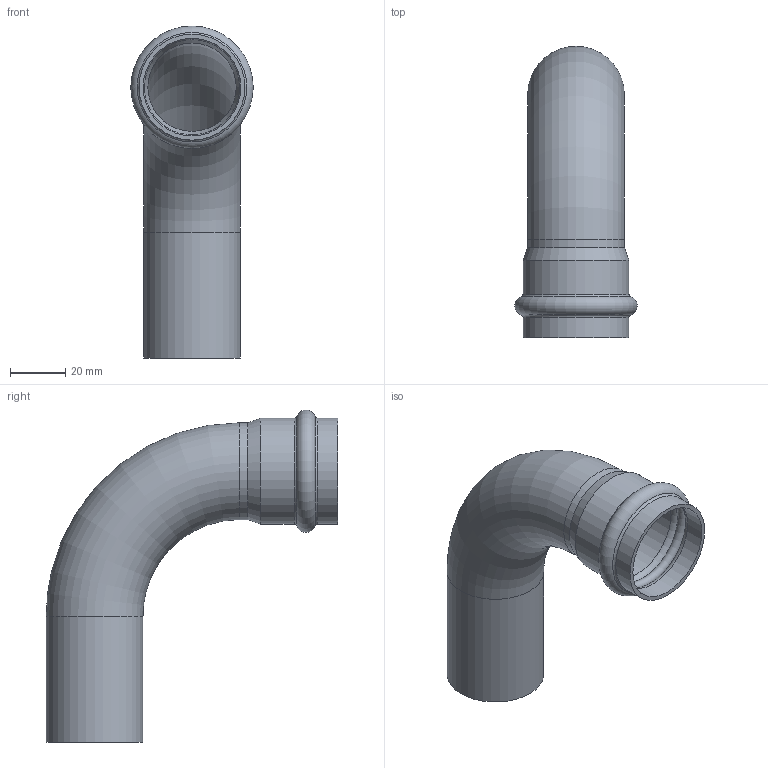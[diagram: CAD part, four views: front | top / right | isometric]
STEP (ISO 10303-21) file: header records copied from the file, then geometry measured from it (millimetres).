
FILE_DESCRIPTION(('STEP AP203'), '1');
FILE_NAME('VTi.950.I.003535', '', ('UNSPECIFIED'), ('UNSPECIFIED'), 'C3D Converter', 'C3D Toolkit', '');
FILE_SCHEMA(('CONFIG_CONTROL_DESIGN'));
Length unit declared in the file: millimetre
Products named in the file (1): ВР.302661.028.000 СБ
Bounding box: 44.28 x 105.5 x 120.14 mm (x, y, z)
Volume: 28059.1 mm3; surface area: 36667.5 mm2
Topology: 1 solids, 1 shells, 21 faces, 44 edges, 25 vertices
Faces by surface type: torus 9, cylinder 8, plane 2, cone 2
Full cylindrical faces by diameter (mm): 32 x2, 35 x2, 35.3 x2, 38.3 x2
Entity records: 508 total; most frequent: DIRECTION 94, CARTESIAN_POINT 72, ORIENTED_EDGE 50, AXIS2_PLACEMENT_3D 47, EDGE_LOOP 42, FACE_OUTER_BOUND 30, EDGE_CURVE 25, VERTEX_POINT 25
